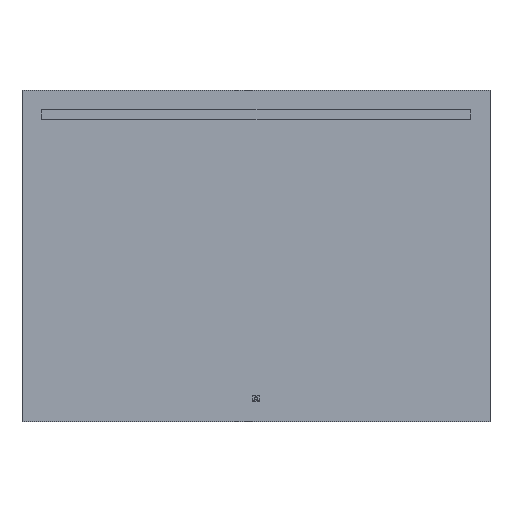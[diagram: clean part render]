
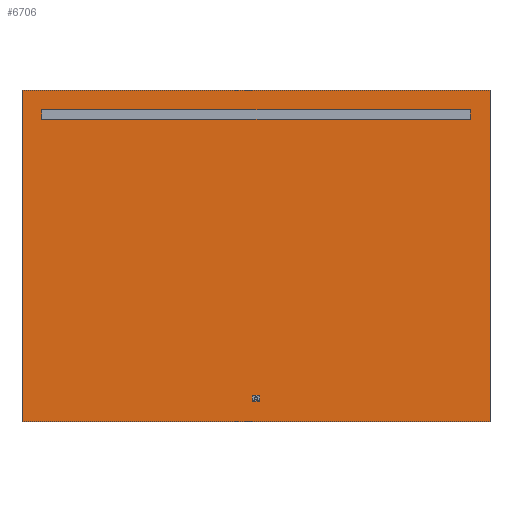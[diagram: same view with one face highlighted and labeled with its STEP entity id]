
A CAD part, top view. The second image highlights one B-rep face of the part: STEP entity #6706.
In plain terms, the highlighted planar face has unit normal (0, 0, 1).
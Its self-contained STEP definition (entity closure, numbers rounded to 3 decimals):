
#23 = DIRECTION ( 'NONE',  ( 1., 0., 0. ) ) ;
#75 = ORIENTED_EDGE ( 'NONE', *, *, #3473, .F. ) ;
#94 = VERTEX_POINT ( 'NONE', #297 ) ;
#225 = DIRECTION ( 'NONE',  ( 0., 0., 1. ) ) ;
#297 = CARTESIAN_POINT ( 'NONE',  ( 550., 375., 2.5 ) ) ;
#330 = EDGE_CURVE ( 'NONE', #2672, #5707, #1447, .T. ) ;
#337 = VERTEX_POINT ( 'NONE', #4187 ) ;
#402 = ORIENTED_EDGE ( 'NONE', *, *, #6251, .F. ) ;
#501 = EDGE_LOOP ( 'NONE', ( #5609, #5374, #75, #546, #4746, #5856, #4659, #402 ) ) ;
#505 = CARTESIAN_POINT ( 'NONE',  ( -550., 375., 2.5 ) ) ;
#524 = LINE ( 'NONE', #4554, #974 ) ;
#546 = ORIENTED_EDGE ( 'NONE', *, *, #330, .F. ) ;
#670 = CARTESIAN_POINT ( 'NONE',  ( 0., 0., 2.5 ) ) ;
#725 = AXIS2_PLACEMENT_3D ( 'NONE', #6145, #6753, #2354 ) ;
#872 = ORIENTED_EDGE ( 'NONE', *, *, #6697, .T. ) ;
#893 = CARTESIAN_POINT ( 'NONE',  ( 0., -372.5, 2.5 ) ) ;
#974 = VECTOR ( 'NONE', #1838, 1000. ) ;
#1007 = CARTESIAN_POINT ( 'NONE',  ( -6., -372.5, 2.5 ) ) ;
#1024 = CARTESIAN_POINT ( 'NONE',  ( 10., -361.5, 2.5 ) ) ;
#1065 = DIRECTION ( 'NONE',  ( -1., 0., 0. ) ) ;
#1112 = ORIENTED_EDGE ( 'NONE', *, *, #2445, .F. ) ;
#1119 = VECTOR ( 'NONE', #6976, 1000. ) ;
#1157 = VECTOR ( 'NONE', #6790, 1000. ) ;
#1217 = DIRECTION ( 'NONE',  ( 0., 0., 1. ) ) ;
#1225 = EDGE_CURVE ( 'NONE', #3053, #7109, #524, .T. ) ;
#1290 = VECTOR ( 'NONE', #23, 1000. ) ;
#1293 = CARTESIAN_POINT ( 'NONE',  ( 550., 350., 2.5 ) ) ;
#1381 = CARTESIAN_POINT ( 'NONE',  ( -6., -357.5, 2.5 ) ) ;
#1447 = LINE ( 'NONE', #893, #3251 ) ;
#1492 = CIRCLE ( 'NONE', #725, 4. ) ;
#1497 = LINE ( 'NONE', #6197, #1157 ) ;
#1565 = ORIENTED_EDGE ( 'NONE', *, *, #7137, .F. ) ;
#1621 = LINE ( 'NONE', #2414, #3256 ) ;
#1625 = VECTOR ( 'NONE', #4588, 1000. ) ;
#1634 = CARTESIAN_POINT ( 'NONE',  ( -600., -425., 2.5 ) ) ;
#1641 = VERTEX_POINT ( 'NONE', #4975 ) ;
#1749 = VERTEX_POINT ( 'NONE', #1293 ) ;
#1763 = CARTESIAN_POINT ( 'NONE',  ( 600., 425., 2.5 ) ) ;
#1838 = DIRECTION ( 'NONE',  ( 0., -1., 0. ) ) ;
#1851 = EDGE_CURVE ( 'NONE', #6169, #3815, #3023, .T. ) ;
#1858 = AXIS2_PLACEMENT_3D ( 'NONE', #670, #2448, #6269 ) ;
#1882 = ORIENTED_EDGE ( 'NONE', *, *, #3816, .T. ) ;
#1999 = CARTESIAN_POINT ( 'NONE',  ( 6., -357.5, 2.5 ) ) ;
#2123 = DIRECTION ( 'NONE',  ( 1., 0., 0. ) ) ;
#2127 = VERTEX_POINT ( 'NONE', #1763 ) ;
#2157 = EDGE_LOOP ( 'NONE', ( #1565, #4083, #4203, #1112 ) ) ;
#2280 = DIRECTION ( 'NONE',  ( 0., 0., 1. ) ) ;
#2354 = DIRECTION ( 'NONE',  ( -1., 0., 0. ) ) ;
#2361 = CARTESIAN_POINT ( 'NONE',  ( 10., -368.5, 2.5 ) ) ;
#2414 = CARTESIAN_POINT ( 'NONE',  ( -600., 425., 2.5 ) ) ;
#2445 = EDGE_CURVE ( 'NONE', #94, #3430, #3999, .T. ) ;
#2448 = DIRECTION ( 'NONE',  ( 0., 0., -1. ) ) ;
#2573 = FACE_OUTER_BOUND ( 'NONE', #2851, .T. ) ;
#2578 = LINE ( 'NONE', #7071, #1119 ) ;
#2631 = VECTOR ( 'NONE', #2795, 1000. ) ;
#2655 = VECTOR ( 'NONE', #4649, 1000. ) ;
#2672 = VERTEX_POINT ( 'NONE', #1007 ) ;
#2738 = FACE_BOUND ( 'NONE', #2157, .T. ) ;
#2795 = DIRECTION ( 'NONE',  ( -1., 0., 0. ) ) ;
#2851 = EDGE_LOOP ( 'NONE', ( #7133, #872, #7095, #1882 ) ) ;
#2861 = CIRCLE ( 'NONE', #4798, 4. ) ;
#3023 = LINE ( 'NONE', #4565, #5471 ) ;
#3053 = VERTEX_POINT ( 'NONE', #6719 ) ;
#3147 = EDGE_CURVE ( 'NONE', #337, #5229, #1497, .T. ) ;
#3251 = VECTOR ( 'NONE', #4738, 1000. ) ;
#3256 = VECTOR ( 'NONE', #4595, 1000. ) ;
#3430 = VERTEX_POINT ( 'NONE', #505 ) ;
#3473 = EDGE_CURVE ( 'NONE', #5707, #6169, #1492, .T. ) ;
#3482 = EDGE_CURVE ( 'NONE', #3815, #5963, #5319, .T. ) ;
#3500 = FACE_BOUND ( 'NONE', #501, .T. ) ;
#3576 = CARTESIAN_POINT ( 'NONE',  ( -550., 0., 2.5 ) ) ;
#3630 = AXIS2_PLACEMENT_3D ( 'NONE', #4001, #1217, #3926 ) ;
#3815 = VERTEX_POINT ( 'NONE', #1024 ) ;
#3816 = EDGE_CURVE ( 'NONE', #7109, #1641, #5666, .T. ) ;
#3894 = CARTESIAN_POINT ( 'NONE',  ( -550., 350., 2.5 ) ) ;
#3920 = EDGE_CURVE ( 'NONE', #5229, #2672, #2861, .T. ) ;
#3926 = DIRECTION ( 'NONE',  ( -1., 0., 0. ) ) ;
#3940 = VERTEX_POINT ( 'NONE', #1381 ) ;
#3942 = AXIS2_PLACEMENT_3D ( 'NONE', #5617, #2280, #6705 ) ;
#3999 = LINE ( 'NONE', #6531, #2631 ) ;
#4001 = CARTESIAN_POINT ( 'NONE',  ( -6., -361.5, 2.5 ) ) ;
#4027 = CARTESIAN_POINT ( 'NONE',  ( 0., -357.5, 2.5 ) ) ;
#4083 = ORIENTED_EDGE ( 'NONE', *, *, #6585, .F. ) ;
#4167 = VECTOR ( 'NONE', #2123, 1000. ) ;
#4187 = CARTESIAN_POINT ( 'NONE',  ( -10., -361.5, 2.5 ) ) ;
#4203 = ORIENTED_EDGE ( 'NONE', *, *, #6881, .F. ) ;
#4204 = LINE ( 'NONE', #3576, #2655 ) ;
#4209 = LINE ( 'NONE', #4027, #1625 ) ;
#4451 = CARTESIAN_POINT ( 'NONE',  ( 550., 0., 2.5 ) ) ;
#4541 = CARTESIAN_POINT ( 'NONE',  ( -6., -368.5, 2.5 ) ) ;
#4554 = CARTESIAN_POINT ( 'NONE',  ( -600., -425., 2.5 ) ) ;
#4565 = CARTESIAN_POINT ( 'NONE',  ( 10., 0., 2.5 ) ) ;
#4588 = DIRECTION ( 'NONE',  ( -1., 0., 0. ) ) ;
#4595 = DIRECTION ( 'NONE',  ( -1., 0., 0. ) ) ;
#4620 = DIRECTION ( 'NONE',  ( 0., 1., 0. ) ) ;
#4649 = DIRECTION ( 'NONE',  ( 0., -1., 0. ) ) ;
#4659 = ORIENTED_EDGE ( 'NONE', *, *, #5061, .F. ) ;
#4680 = CARTESIAN_POINT ( 'NONE',  ( -10., -368.5, 2.5 ) ) ;
#4738 = DIRECTION ( 'NONE',  ( 1., 0., 0. ) ) ;
#4746 = ORIENTED_EDGE ( 'NONE', *, *, #3920, .F. ) ;
#4798 = AXIS2_PLACEMENT_3D ( 'NONE', #4541, #225, #1065 ) ;
#4975 = CARTESIAN_POINT ( 'NONE',  ( 600., -425., 2.5 ) ) ;
#5061 = EDGE_CURVE ( 'NONE', #3940, #337, #6581, .T. ) ;
#5229 = VERTEX_POINT ( 'NONE', #4680 ) ;
#5319 = CIRCLE ( 'NONE', #3942, 4. ) ;
#5374 = ORIENTED_EDGE ( 'NONE', *, *, #1851, .F. ) ;
#5471 = VECTOR ( 'NONE', #4620, 1000. ) ;
#5609 = ORIENTED_EDGE ( 'NONE', *, *, #3482, .F. ) ;
#5617 = CARTESIAN_POINT ( 'NONE',  ( 6., -361.5, 2.5 ) ) ;
#5622 = LINE ( 'NONE', #4451, #6721 ) ;
#5666 = LINE ( 'NONE', #1634, #4167 ) ;
#5707 = VERTEX_POINT ( 'NONE', #5789 ) ;
#5789 = CARTESIAN_POINT ( 'NONE',  ( 6., -372.5, 2.5 ) ) ;
#5856 = ORIENTED_EDGE ( 'NONE', *, *, #3147, .F. ) ;
#5963 = VERTEX_POINT ( 'NONE', #1999 ) ;
#6048 = CARTESIAN_POINT ( 'NONE',  ( 0., 350., 2.5 ) ) ;
#6145 = CARTESIAN_POINT ( 'NONE',  ( 6., -368.5, 2.5 ) ) ;
#6169 = VERTEX_POINT ( 'NONE', #2361 ) ;
#6197 = CARTESIAN_POINT ( 'NONE',  ( -10., 0., 2.5 ) ) ;
#6251 = EDGE_CURVE ( 'NONE', #5963, #3940, #4209, .T. ) ;
#6269 = DIRECTION ( 'NONE',  ( -1., 0., 0. ) ) ;
#6531 = CARTESIAN_POINT ( 'NONE',  ( 0., 375., 2.5 ) ) ;
#6551 = CARTESIAN_POINT ( 'NONE',  ( -600., -425., 2.5 ) ) ;
#6557 = EDGE_CURVE ( 'NONE', #1641, #2127, #2578, .T. ) ;
#6581 = CIRCLE ( 'NONE', #3630, 4. ) ;
#6585 = EDGE_CURVE ( 'NONE', #7160, #1749, #6821, .T. ) ;
#6673 = DIRECTION ( 'NONE',  ( 0., 1., 0. ) ) ;
#6697 = EDGE_CURVE ( 'NONE', #2127, #3053, #1621, .T. ) ;
#6705 = DIRECTION ( 'NONE',  ( -1., 0., 0. ) ) ;
#6706 = ADVANCED_FACE ( 'NONE', ( #3500, #2573, #2738 ), #6796, .F. ) ;
#6719 = CARTESIAN_POINT ( 'NONE',  ( -600., 425., 2.5 ) ) ;
#6721 = VECTOR ( 'NONE', #6673, 1000. ) ;
#6753 = DIRECTION ( 'NONE',  ( 0., 0., 1. ) ) ;
#6790 = DIRECTION ( 'NONE',  ( 0., -1., 0. ) ) ;
#6796 = PLANE ( 'NONE',  #1858 ) ;
#6821 = LINE ( 'NONE', #6048, #1290 ) ;
#6881 = EDGE_CURVE ( 'NONE', #3430, #7160, #4204, .T. ) ;
#6976 = DIRECTION ( 'NONE',  ( 0., 1., 0. ) ) ;
#7071 = CARTESIAN_POINT ( 'NONE',  ( 600., -425., 2.5 ) ) ;
#7095 = ORIENTED_EDGE ( 'NONE', *, *, #1225, .T. ) ;
#7109 = VERTEX_POINT ( 'NONE', #6551 ) ;
#7133 = ORIENTED_EDGE ( 'NONE', *, *, #6557, .T. ) ;
#7137 = EDGE_CURVE ( 'NONE', #1749, #94, #5622, .T. ) ;
#7160 = VERTEX_POINT ( 'NONE', #3894 ) ;
